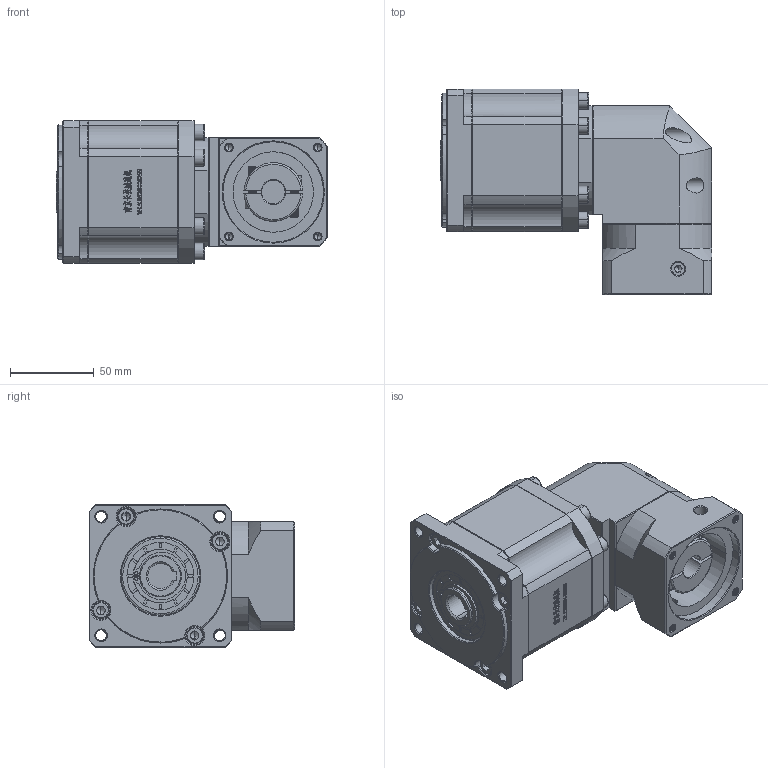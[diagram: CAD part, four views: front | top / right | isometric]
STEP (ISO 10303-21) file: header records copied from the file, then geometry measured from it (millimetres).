
FILE_DESCRIPTION (( 'STEP AP214' ), '1' );
FILE_NAME ('ZBR90-K15-L3-14-60-75-M5.step', '2022-05-07T15:26:29', ( '' ), ( 'Microsoft' ), 'SwSTEP 2.0', 'SolidWorks 2016', '' );
FILE_SCHEMA (( 'AUTOMOTIVE_DESIGN' ));
Length unit declared in the file: millimetre
Products named in the file (1): ZBR90-K15-L3-14-60-75-M5
Bounding box: 162 x 122.7 x 85 mm (x, y, z)
Volume: 918300.5 mm3; surface area: 105264.8 mm2
Topology: 5 solids, 5 shells, 2990 faces, 8041 edges, 5194 vertices
Faces by surface type: plane 1591, bspline 598, cylinder 418, cone 363, torus 20
Entity records: 157342 total; most frequent: CARTESIAN_POINT 53884, ORIENTED_EDGE 15994, DIRECTION 12382, EDGE_CURVE 7997, VECTOR 5306, LINE 5306, VERTEX_POINT 5194, AXIS2_PLACEMENT_3D 3538
